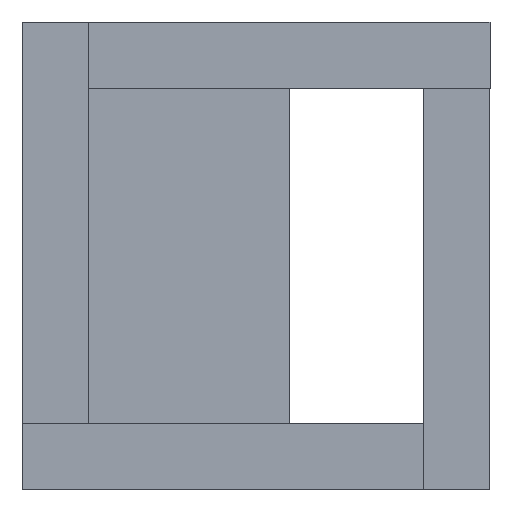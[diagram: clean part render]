
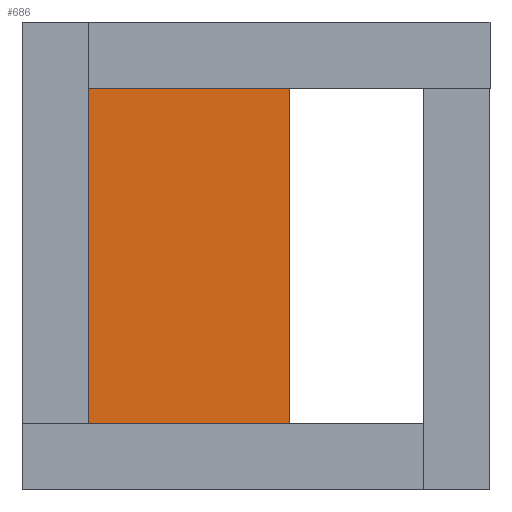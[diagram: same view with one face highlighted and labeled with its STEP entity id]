
A CAD part, front view. The second image highlights one B-rep face of the part: STEP entity #686.
In plain terms, the highlighted planar face has unit normal (0, -1, 0) as drawn and (0, 0, -1) by its records, which use the part's own axes.
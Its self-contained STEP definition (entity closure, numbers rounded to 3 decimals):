
#269 = VERTEX_POINT ( 'NONE', #354 ) ;
#273 = VERTEX_POINT ( 'NONE', #369 ) ;
#276 = VERTEX_POINT ( 'NONE', #352 ) ;
#277 = VERTEX_POINT ( 'NONE', #371 ) ;
#314 = EDGE_LOOP ( 'NONE', ( #472, #473, #474, #630 ) ) ;
#352 = CARTESIAN_POINT ( 'NONE',  ( 60., 0., 0. ) ) ;
#354 = CARTESIAN_POINT ( 'NONE',  ( 60., 40., 0. ) ) ;
#369 = CARTESIAN_POINT ( 'NONE',  ( 0., 40., 0. ) ) ;
#371 = CARTESIAN_POINT ( 'NONE',  ( 0., 0., 0. ) ) ;
#472 = ORIENTED_EDGE ( 'NONE', *, *, #743, .F. ) ;
#473 = ORIENTED_EDGE ( 'NONE', *, *, #752, .F. ) ;
#474 = ORIENTED_EDGE ( 'NONE', *, *, #749, .F. ) ;
#630 = ORIENTED_EDGE ( 'NONE', *, *, #746, .F. ) ;
#686 = ADVANCED_FACE ( 'NONE', ( #982 ), #984, .T. ) ;
#743 = EDGE_CURVE ( 'NONE', #273, #277, #1175, .T. ) ;
#746 = EDGE_CURVE ( 'NONE', #277, #276, #1189, .T. ) ;
#749 = EDGE_CURVE ( 'NONE', #276, #269, #1198, .T. ) ;
#752 = EDGE_CURVE ( 'NONE', #269, #273, #1207, .T. ) ;
#833 = AXIS2_PLACEMENT_3D ( 'NONE', #985, #986, #987 ) ;
#881 = VECTOR ( 'NONE', #1183, 1000. ) ;
#882 = VECTOR ( 'NONE', #1200, 1000. ) ;
#884 = VECTOR ( 'NONE', #1191, 1000. ) ;
#887 = VECTOR ( 'NONE', #1209, 1000. ) ;
#982 = FACE_OUTER_BOUND ( 'NONE', #314, .T. ) ;
#984 = PLANE ( 'NONE',  #833 ) ;
#985 = CARTESIAN_POINT ( 'NONE',  ( 0., 40., 0. ) ) ;
#986 = DIRECTION ( 'NONE',  ( 0., 0., -1. ) ) ;
#987 = DIRECTION ( 'NONE',  ( -1., 0., 0. ) ) ;
#1175 = LINE ( 'NONE', #1181, #881 ) ;
#1181 = CARTESIAN_POINT ( 'NONE',  ( 0., 0., 0. ) ) ;
#1183 = DIRECTION ( 'NONE',  ( 0., -1., 0. ) ) ;
#1189 = LINE ( 'NONE', #1190, #884 ) ;
#1190 = CARTESIAN_POINT ( 'NONE',  ( 0., 0., 0. ) ) ;
#1191 = DIRECTION ( 'NONE',  ( 1., 0., 0. ) ) ;
#1198 = LINE ( 'NONE', #1199, #882 ) ;
#1199 = CARTESIAN_POINT ( 'NONE',  ( 60., 0., 0. ) ) ;
#1200 = DIRECTION ( 'NONE',  ( 0., 1., 0. ) ) ;
#1207 = LINE ( 'NONE', #1208, #887 ) ;
#1208 = CARTESIAN_POINT ( 'NONE',  ( 0., 40., 0. ) ) ;
#1209 = DIRECTION ( 'NONE',  ( -1., 0., 0. ) ) ;
